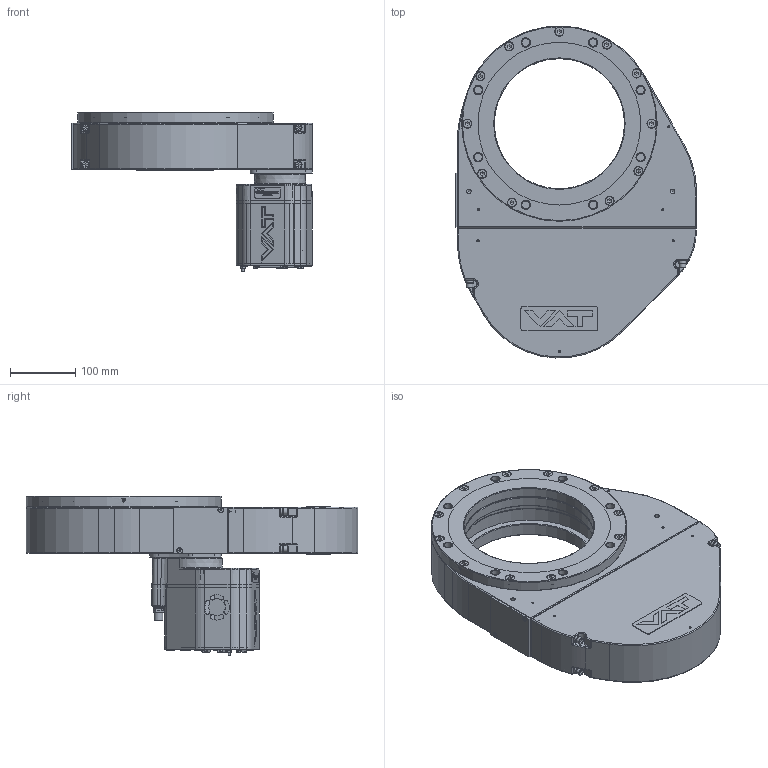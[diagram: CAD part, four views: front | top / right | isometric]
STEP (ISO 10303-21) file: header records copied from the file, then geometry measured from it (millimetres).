
FILE_DESCRIPTION(/* description */ (''),/* implementation_level */ '2;1');
FILE_NAME(/* name */ '1494227500_203.stp',/* time_stamp */ '2024-06-27T17:06:55+08:00',/* author */ (''),/* organization */ (''),/* preprocessor_version */ 'ST-DEVELOPER v19.3',/* originating_system */ 'SIEMENS PLM Software NX2212.6000',/* authorisation */ '');
FILE_SCHEMA (('AP203_CONFIGURATION_CONTROLLED_3D_DESIGN_OF_MECHANICAL_PARTS_AND_ASSEMBLIES_MIM_LF { 1 0 10303 403 2 1 2}'));
Products named in the file (52): 915542; 1062830; 1062211_37790ID; 1062217; n-6053-409.2; n-6171-408.1; 507510; 930887; 1062837; 1062205; 223868.1; 1062209; 1062215; 915758; 1062236_37502ID; 259932_3.2; 259932_2.3; 259932_1.3; 259932_4.2; 325243.3; 904475; 1062241; 1062232; 736900; 877855; 995881; N-6090-119.1; n-6005-441.1; 938726; n-6090-308.1; n-6091-494.1; 995853; 207156.1; 206036.2; 444307; 979972; 958026; 366217; 930837; 228777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
Assembly tree (107 placements, depth 5):
  1297238
    995861
      995853
      n-6091-494.1  x2
      n-6090-308.1  x4
      938726  x2
      n-6005-441.1  x2
      N-6090-119.1  x8
    967259
    995882
      995881
      N-6090-119.1  x8
    228777  x11
    949709_NX-ARRAGMNTopen
      877855
      736900  x4
      1062237
        1062236_37502ID
      1062232
      1062241
      904475
    930908
      325243.3  x4
      1062219
        915758
        1062215
      917030
        1062209
        1062214_MODEL
          1062211_37790ID
        325243.3  x4
        223868.1  x2
        1062205
        1062829
          1062830
          915542
        1062837
        930887  x6
        507510
        n-6171-408.1
        n-6053-409.2
        1062217
        1062215
    930837
    366217
    259932.6_NX-ARRAGMNTZUSAMMENST1
      259932_4.2
      259932_1.3
      259932_2.3
      259932_3.2
    958026  x2
    979972
    444307  x2
    206036.2  x4
    207156.1  x4
Bounding box: 370 x 509.85 x 245.2 mm (x, y, z)
Volume: 8852516.8 mm3; surface area: 941704.8 mm2
Topology: 173 solids, 173 shells, 2931 faces, 7110 edges, 4732 vertices
Faces by surface type: plane 1614, cylinder 862, cone 190, torus 103, extrusion 97, bspline 40, sphere 25
Full cylindrical faces by diameter (mm): 0.7 x15, 1.1 x40, 2 x74, 2.5 x7, 2.9 x6, 3 x8, 3.2 x9, 3.25 x1, 3.26 x4, 3.3 x28, 3.5 x22, 3.96 x2, 4 x11, 4.02 x2, 4.05 x1, 4.16 x2, 4.2 x6, 4.3 x2, 4.4 x2, 4.5 x5, 4.725 x1, 4.8 x4, 4.96 x12, 4.991 x2, 5 x27, 5.075 x1, 5.1 x1, 5.165 x2, 5.9 x1, 5.991 x2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
Entity records: 75172 total; most frequent: CARTESIAN_POINT 15873, DIRECTION 10301, ORIENTED_EDGE 9952, EDGE_CURVE 4976, AXIS2_PLACEMENT_3D 3822, VERTEX_POINT 3719, EDGE_LOOP 3394, VECTOR 2657
